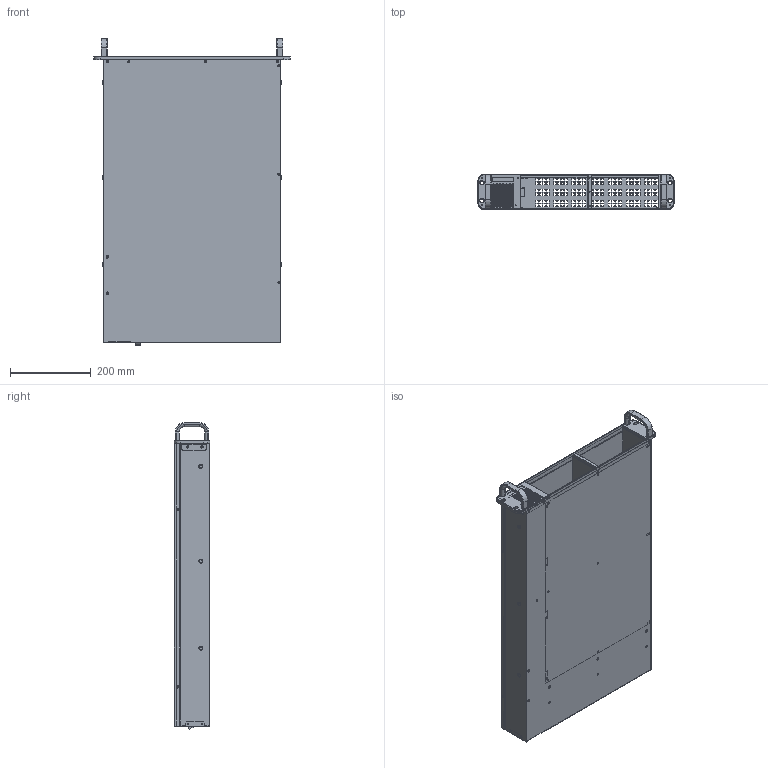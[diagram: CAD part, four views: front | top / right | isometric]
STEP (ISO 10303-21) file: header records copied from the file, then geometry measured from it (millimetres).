
FILE_DESCRIPTION((''),'2;1');
FILE_NAME('K2412M_SYSTEM_ASSY_ASM','2016-12-16T',('Administrator'),(''),'PRO/ENGINEER BY PARAMETRIC TECHNOLOGY CORPORATION, 2011490','PRO/ENGINEER BY PARAMETRIC TECHNOLOGY CORPORATION, 2011490','');
FILE_SCHEMA(('AUTOMOTIVE_DESIGN { 1 0 10303 214 1 1 1 1 }'));
Products named in the file (19): SKT_MEDIA_BOTTOM; SKT_CPU_GUIDE_MID_CROSS; SKT_CPU_GUIDE_BOTTOM_COVER; SKT_CPU_GUIDE_LEFT_CROSS; SKT_CPU_GUIDE_RIGHT_CROSS; SKT_CPU_GUIDE_TOP_COVER; SKT_CPU_GUIDE_ASSY_ASM; SKT_FRONT_BEZEL; SKT_FRONT_PANEL_LEFT; SKT_FRONT_PANEL_MID; SKT_FRONT_PANEL_RIGHT; SKT_FRONT_RIGHT_BRKT; SKT_FRONT_LEFT_BRKT; K2412M_BACK_PLANE_ASSY_ASM; SKT_HANDLE; SKT_HANDLE_ASSY_ASM; SKT_TOP_COVER; SWITCH_; K2412M_SYSTEM_ASSY_ASM
Assembly tree (19 placements, depth 3):
  K2412M_SYSTEM_ASSY_ASM
    SKT_MEDIA_BOTTOM
    SKT_CPU_GUIDE_ASSY_ASM
      SKT_CPU_GUIDE_MID_CROSS
      SKT_CPU_GUIDE_BOTTOM_COVER
      SKT_CPU_GUIDE_LEFT_CROSS
      SKT_CPU_GUIDE_RIGHT_CROSS
      SKT_CPU_GUIDE_TOP_COVER
    SKT_FRONT_BEZEL
    SKT_FRONT_PANEL_LEFT
    SKT_FRONT_PANEL_MID
    SKT_FRONT_PANEL_RIGHT
    SKT_FRONT_RIGHT_BRKT
    SKT_FRONT_LEFT_BRKT
    K2412M_BACK_PLANE_ASSY_ASM
    SKT_HANDLE_ASSY_ASM  x2
      SKT_HANDLE
    SKT_TOP_COVER
    SWITCH_
Bounding box: 486 x 88 x 760.18 mm (x, y, z)
Volume: 2406565.9 mm3; surface area: 2901674.3 mm2
Topology: 16 solids, 16 shells, 2849 faces, 7613 edges, 4891 vertices
Faces by surface type: plane 1153, cylinder 1104, cone 576, torus 16
Entity records: 114192 total; most frequent: DIRECTION 15978, CARTESIAN_POINT 15541, ORIENTED_EDGE 15026, EDGE_CURVE 7513, PRESENTATION_STYLE_ASSIGNMENT 7410, STYLED_ITEM 7388, CURVE_STYLE 7375, AXIS2_PLACEMENT_3D 5656
